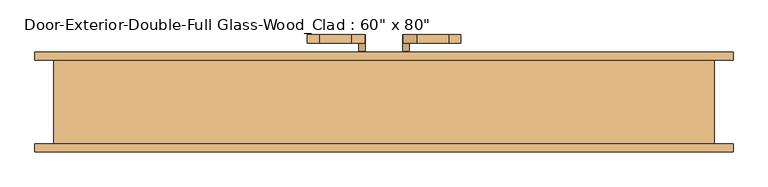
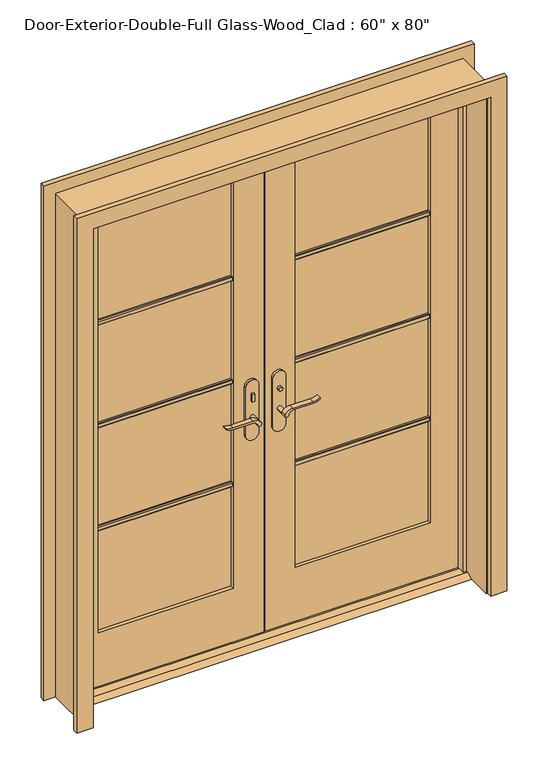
"""IFC4 building model written with IfcOpenShell, lengths in millimetres: door geometry."""

from ifc_helpers import new_model, si_unit, point, frame, frame_2d, origin, place, context, project, spatial, polyline, circle_curve, trimmed, segment, composite_curve, outline, extrude, faceted_brep, source, transform, mapped, element, save


def door_fa4e7676(model_context):
    return source(origin(), model_context, "Body", "SolidModel", [
        extrude(outline(polyline([(19.05, 12.7), (53.975, 12.7), (79.375, 0.0), (-6.35, 0.0), (19.05, 12.7)])), frame((-762.0, 0.0, 0.0), z_axis=(1.0, 0.0, 0.0), x_axis=(0.0, 1.0, 0.0)), (0.0, 0.0, 1.0), 1524.0),
        extrude(outline(polyline([(-47.4019111, 41.9), (-57.4019111, 41.9), (-57.4019111, 51.9), (-47.4019111, 51.9), (-47.4019111, 41.9)])), frame((0.0, 0.0, 981.9), z_axis=(0.0, 0.0, 1.0), x_axis=(1.0, 0.0, 0.0)), (0.0, 0.0, 1.0), 30.0),
        extrude(outline(composite_curve([segment(trimmed(circle_curve(frame_2d((996.9, -52.4019111)), 8.0), [point((996.9, -60.4019111))], [point((996.9, -44.4019111))], False, "CARTESIAN"), True, "CONTINUOUS"), segment(trimmed(circle_curve(frame_2d((996.9, -52.4019111)), 8.0), [point((996.9, -44.4019111))], [point((996.9, -60.4019111))], False, "CARTESIAN"), True, "CONTINUOUS")], self_intersect=False)), frame((0.0, 106.825, 0.0), z_axis=(0.0, 1.0, 0.0), x_axis=(0.0, 0.0, 1.0)), (0.0, 0.0, 1.0), 10.0),
        extrude(outline(composite_curve([segment(trimmed(circle_curve(frame_2d((897.1555521, -76.0694241)), 37.2832219), [point((919.0523287, -45.8937749))], [point((934.4, -77.7693445))], False, "CARTESIAN"), True, "CONTINUOUS"), segment(polyline([(934.4, -77.7693445), (934.4, -154.045502)]), True, "CONTINUOUS"), segment(trimmed(circle_curve(frame_2d((1017.6850638, -153.9791202)), 83.2850902), [point((934.4, -154.045502))], [point((939.4, -182.4019111))], True, "CARTESIAN"), True, "CONTINUOUS"), segment(polyline([(939.4, -182.4019111), (936.6135558, -182.4019111)]), True, "CONTINUOUS"), segment(trimmed(circle_curve(frame_2d((986.6709207, -150.4622499)), 59.3791355), [point((936.6135558, -182.4019111))], [point((927.4, -154.045502))], False, "CARTESIAN"), True, "CONTINUOUS"), segment(polyline([(927.4, -154.045502), (927.4, -77.7881013)]), True, "CONTINUOUS"), segment(trimmed(circle_curve(frame_2d((909.2738613, -77.7881013)), 18.1261387), [point((927.4, -77.7881013))], [point((914.4, -60.4019111))], True, "CARTESIAN"), True, "CONTINUOUS"), segment(trimmed(circle_curve(frame_2d((914.4, -52.4019111)), 8.0), [point((914.4, -60.4019111))], [point((919.0523287, -45.8937749))], False, "CARTESIAN"), True, "CONTINUOUS")], self_intersect=False)), frame((0.0, 1.9, 0.0), z_axis=(0.0, 1.0, 0.0), x_axis=(0.0, 0.0, 1.0)), (0.0, 0.0, 1.0), 20.0),
        extrude(outline(composite_curve([segment(trimmed(circle_curve(frame_2d((914.4, -52.4019111)), 8.0), [point((914.3999903, -60.4019111))], [point((919.0523287, -45.8937749))], False, "CARTESIAN"), True, "CONTINUOUS"), segment(trimmed(circle_curve(frame_2d((897.1555521, -76.0694241)), 37.2832219), [point((919.0523287, -45.8937749))], [point((934.4, -77.7693445))], False, "CARTESIAN"), True, "CONTINUOUS"), segment(polyline([(934.4, -77.7693445), (934.4, -154.045502)]), True, "CONTINUOUS"), segment(trimmed(circle_curve(frame_2d((1017.6850638, -153.9791202)), 83.2850902), [point((934.4, -154.045502))], [point((939.4, -182.4019111))], True, "CARTESIAN"), True, "CONTINUOUS"), segment(polyline([(939.4, -182.4019111), (936.6135558, -182.4019111)]), True, "CONTINUOUS"), segment(trimmed(circle_curve(frame_2d((986.6709207, -150.4622499)), 59.3791355), [point((936.6135558, -182.4019111))], [point((927.4, -154.045502))], False, "CARTESIAN"), True, "CONTINUOUS"), segment(polyline([(927.4, -154.045502), (927.4, -77.788099)]), True, "CONTINUOUS"), segment(trimmed(circle_curve(frame_2d((909.2738682, -77.788099)), 18.1261318), [point((927.4, -77.788099))], [point((914.3999903, -60.4019111))], True, "CARTESIAN"), True, "CONTINUOUS")], self_intersect=False)), frame((0.0, 136.825, 0.0), z_axis=(0.0, 1.0, 0.0), x_axis=(0.0, 0.0, 1.0)), (0.0, 0.0, 1.0), 20.0),
        extrude(outline(composite_curve([segment(trimmed(circle_curve(frame_2d((914.4, -52.4019111)), 8.0), [point((914.4, -60.4019111))], [point((914.4, -44.4019111))], False, "CARTESIAN"), True, "CONTINUOUS"), segment(trimmed(circle_curve(frame_2d((914.4, -52.4019111)), 8.0), [point((914.4, -44.4019111))], [point((914.4, -60.4019111))], False, "CARTESIAN"), True, "CONTINUOUS")], self_intersect=False)), frame((0.0, 21.9, 0.0), z_axis=(0.0, 1.0, 0.0), x_axis=(0.0, 0.0, 1.0)), (0.0, 0.0, 1.0), 30.0),
        extrude(outline(composite_curve([segment(trimmed(circle_curve(frame_2d((914.4, -52.4019111)), 8.0), [point((914.4, -60.4019111))], [point((914.4, -44.4019111))], False, "CARTESIAN"), True, "CONTINUOUS"), segment(trimmed(circle_curve(frame_2d((914.4, -52.4019111)), 8.0), [point((914.4, -44.4019111))], [point((914.4, -60.4019111))], False, "CARTESIAN"), True, "CONTINUOUS")], self_intersect=False)), frame((0.0, 106.825, 0.0), z_axis=(0.0, 1.0, 0.0), x_axis=(0.0, 0.0, 1.0)), (0.0, 0.0, 1.0), 30.0),
        extrude(outline(composite_curve([segment(polyline([(844.4, -27.4019111), (1039.4, -27.4019111)]), True, "CONTINUOUS"), segment(trimmed(circle_curve(frame_2d((1039.4, -52.4019111)), 25.0), [point((1039.4, -27.4019111))], [point((1039.4, -77.4019111))], False, "CARTESIAN"), True, "CONTINUOUS"), segment(polyline([(1039.4, -77.4019111), (844.4, -77.4019111)]), True, "CONTINUOUS"), segment(trimmed(circle_curve(frame_2d((844.4, -52.4019111)), 25.0), [point((844.4, -77.4019111))], [point((844.4, -27.4019111))], False, "CARTESIAN"), True, "CONTINUOUS")], self_intersect=False)), frame((0.0, 51.9, 0.0), z_axis=(0.0, 1.0, 0.0), x_axis=(0.0, 0.0, 1.0)), (0.0, 0.0, 1.0), 10.0),
        extrude(outline(composite_curve([segment(polyline([(844.4, -27.4019111), (1039.4, -27.4019111)]), True, "CONTINUOUS"), segment(trimmed(circle_curve(frame_2d((1039.4, -52.4019111)), 25.0), [point((1039.4, -27.4019111))], [point((1039.4, -77.4019111))], False, "CARTESIAN"), True, "CONTINUOUS"), segment(polyline([(1039.4, -77.4019111), (844.4, -77.4019111)]), True, "CONTINUOUS"), segment(trimmed(circle_curve(frame_2d((844.4, -52.4019111)), 25.0), [point((844.4, -77.4019111))], [point((844.4, -27.4019111))], False, "CARTESIAN"), True, "CONTINUOUS")], self_intersect=False)), frame((0.0, 96.825, 0.0), z_axis=(0.0, 1.0, 0.0), x_axis=(0.0, 0.0, 1.0)), (0.0, 0.0, 1.0), 10.0),
        extrude(outline(polyline([(47.3875, 116.825), (57.3875, 116.825), (57.3875, 106.825), (47.3875, 106.825), (47.3875, 116.825)])), frame((0.0, 0.0, 981.9), z_axis=(0.0, 0.0, 1.0), x_axis=(1.0, 0.0, 0.0)), (0.0, 0.0, 1.0), 30.0),
        extrude(outline(composite_curve([segment(trimmed(circle_curve(frame_2d((996.9, 52.3875)), 8.0), [point((996.9, 60.3875))], [point((996.9, 44.3875))], False, "CARTESIAN"), True, "CONTINUOUS"), segment(trimmed(circle_curve(frame_2d((996.9, 52.3875)), 8.0), [point((996.9, 44.3875))], [point((996.9, 60.3875))], False, "CARTESIAN"), True, "CONTINUOUS")], self_intersect=False)), frame((0.0, 41.9, 0.0), z_axis=(0.0, 1.0, 0.0), x_axis=(0.0, 0.0, 1.0)), (0.0, 0.0, 1.0), 10.0),
        extrude(outline(composite_curve([segment(trimmed(circle_curve(frame_2d((914.4, 52.3875)), 8.0), [point((919.0523287, 45.8793637))], [point((914.4, 60.3875))], False, "CARTESIAN"), True, "CONTINUOUS"), segment(trimmed(circle_curve(frame_2d((909.2738613, 77.7736901)), 18.1261387), [point((914.4, 60.3875))], [point((927.4, 77.7736901))], True, "CARTESIAN"), True, "CONTINUOUS"), segment(polyline([(927.4, 77.7736901), (927.4, 154.0310909)]), True, "CONTINUOUS"), segment(trimmed(circle_curve(frame_2d((986.6709207, 150.4478388)), 59.3791355), [point((927.4, 154.0310909))], [point((936.6135558, 182.3875))], False, "CARTESIAN"), True, "CONTINUOUS"), segment(polyline([(936.6135558, 182.3875), (939.4, 182.3875)]), True, "CONTINUOUS"), segment(trimmed(circle_curve(frame_2d((1017.6850638, 153.9647091)), 83.2850902), [point((939.4, 182.3875))], [point((934.4, 154.0310909))], True, "CARTESIAN"), True, "CONTINUOUS"), segment(polyline([(934.4, 154.0310909), (934.4, 77.7549333)]), True, "CONTINUOUS"), segment(trimmed(circle_curve(frame_2d((897.1555521, 76.0550129)), 37.2832219), [point((934.4, 77.7549333))], [point((919.0523287, 45.8793637))], False, "CARTESIAN"), True, "CONTINUOUS")], self_intersect=False)), frame((0.0, 136.825, 0.0), z_axis=(0.0, 1.0, 0.0), x_axis=(0.0, 0.0, 1.0)), (0.0, 0.0, 1.0), 20.0),
        extrude(outline(composite_curve([segment(trimmed(circle_curve(frame_2d((909.2738682, 77.7736878)), 18.1261318), [point((914.3999903, 60.3875))], [point((927.4, 77.7736878))], True, "CARTESIAN"), True, "CONTINUOUS"), segment(polyline([(927.4, 77.7736878), (927.4, 154.0310909)]), True, "CONTINUOUS"), segment(trimmed(circle_curve(frame_2d((986.6709207, 150.4478388)), 59.3791355), [point((927.4, 154.0310909))], [point((936.6135558, 182.3875))], False, "CARTESIAN"), True, "CONTINUOUS"), segment(polyline([(936.6135558, 182.3875), (939.4, 182.3875)]), True, "CONTINUOUS"), segment(trimmed(circle_curve(frame_2d((1017.6850638, 153.9647091)), 83.2850902), [point((939.4, 182.3875))], [point((934.4, 154.0310909))], True, "CARTESIAN"), True, "CONTINUOUS"), segment(polyline([(934.4, 154.0310909), (934.4, 77.7549333)]), True, "CONTINUOUS"), segment(trimmed(circle_curve(frame_2d((897.1555521, 76.0550129)), 37.2832219), [point((934.4, 77.7549333))], [point((919.0523287, 45.8793637))], False, "CARTESIAN"), True, "CONTINUOUS"), segment(trimmed(circle_curve(frame_2d((914.4, 52.3875)), 8.0), [point((919.0523287, 45.8793637))], [point((914.3999903, 60.3875))], False, "CARTESIAN"), True, "CONTINUOUS")], self_intersect=False)), frame((0.0, 1.9, 0.0), z_axis=(0.0, 1.0, 0.0), x_axis=(0.0, 0.0, 1.0)), (0.0, 0.0, 1.0), 20.0),
        extrude(outline(composite_curve([segment(trimmed(circle_curve(frame_2d((914.4, 52.3875)), 8.0), [point((914.4, 60.3875))], [point((914.4, 44.3875))], False, "CARTESIAN"), True, "CONTINUOUS"), segment(trimmed(circle_curve(frame_2d((914.4, 52.3875)), 8.0), [point((914.4, 44.3875))], [point((914.4, 60.3875))], False, "CARTESIAN"), True, "CONTINUOUS")], self_intersect=False)), frame((0.0, 106.825, 0.0), z_axis=(0.0, 1.0, 0.0), x_axis=(0.0, 0.0, 1.0)), (0.0, 0.0, 1.0), 30.0),
        extrude(outline(composite_curve([segment(trimmed(circle_curve(frame_2d((914.4, 52.3875)), 8.0), [point((914.4, 60.3875))], [point((914.4, 44.3875))], False, "CARTESIAN"), True, "CONTINUOUS"), segment(trimmed(circle_curve(frame_2d((914.4, 52.3875)), 8.0), [point((914.4, 44.3875))], [point((914.4, 60.3875))], False, "CARTESIAN"), True, "CONTINUOUS")], self_intersect=False)), frame((0.0, 21.9, 0.0), z_axis=(0.0, 1.0, 0.0), x_axis=(0.0, 0.0, 1.0)), (0.0, 0.0, 1.0), 30.0),
        extrude(outline(composite_curve([segment(trimmed(circle_curve(frame_2d((844.4, 52.3875)), 25.0), [point((844.4, 27.3875))], [point((844.4, 77.3875))], False, "CARTESIAN"), True, "CONTINUOUS"), segment(polyline([(844.4, 77.3875), (1039.4, 77.3875)]), True, "CONTINUOUS"), segment(trimmed(circle_curve(frame_2d((1039.4, 52.3875)), 25.0), [point((1039.4, 77.3875))], [point((1039.4, 27.3875))], False, "CARTESIAN"), True, "CONTINUOUS"), segment(polyline([(1039.4, 27.3875), (844.4, 27.3875)]), True, "CONTINUOUS")], self_intersect=False)), frame((0.0, 96.825, 0.0), z_axis=(0.0, 1.0, 0.0), x_axis=(0.0, 0.0, 1.0)), (0.0, 0.0, 1.0), 10.0),
        extrude(outline(composite_curve([segment(trimmed(circle_curve(frame_2d((844.4, 52.3875)), 25.0), [point((844.4, 27.3875))], [point((844.4, 77.3875))], False, "CARTESIAN"), True, "CONTINUOUS"), segment(polyline([(844.4, 77.3875), (1039.4, 77.3875)]), True, "CONTINUOUS"), segment(trimmed(circle_curve(frame_2d((1039.4, 52.3875)), 25.0), [point((1039.4, 77.3875))], [point((1039.4, 27.3875))], False, "CARTESIAN"), True, "CONTINUOUS"), segment(polyline([(1039.4, 27.3875), (844.4, 27.3875)]), True, "CONTINUOUS")], self_intersect=False)), frame((0.0, 51.9, 0.0), z_axis=(0.0, 1.0, 0.0), x_axis=(0.0, 0.0, 1.0)), (0.0, 0.0, 1.0), 10.0),
        extrude(outline(polyline([(75.87, 1502.171875), (75.87, 1483.121875), (69.52, 1483.121875), (66.345, 1486.296875), (66.345, 1498.996875), (69.52, 1502.171875), (75.87, 1502.171875)])), frame((120.65, 0.0, 0.0), z_axis=(1.0, 0.0, 0.0), x_axis=(0.0, 1.0, 0.0)), (0.0, 0.0, 1.0), 520.7),
        extrude(outline(polyline([(75.87, 1081.88125), (75.87, 1062.83125), (69.52, 1062.83125), (66.345, 1066.00625), (66.345, 1078.70625), (69.52, 1081.88125), (75.87, 1081.88125)])), frame((120.65, 0.0, 0.0), z_axis=(1.0, 0.0, 0.0), x_axis=(0.0, 1.0, 0.0)), (0.0, 0.0, 1.0), 520.7),
        extrude(outline(polyline([(75.87, 661.590625), (75.87, 642.540625), (69.52, 642.540625), (66.345, 645.715625), (66.345, 658.415625), (69.52, 661.590625), (75.87, 661.590625)])), frame((120.65, 0.0, 0.0), z_axis=(1.0, 0.0, 0.0), x_axis=(0.0, 1.0, 0.0)), (0.0, 0.0, 1.0), 520.7),
        extrude(outline(polyline([(82.855, 1502.171875), (89.205, 1502.171875), (92.38, 1498.996875), (92.38, 1486.296875), (89.205, 1483.121875), (82.855, 1483.121875), (82.855, 1502.171875)])), frame((-641.35, 0.0, 0.0), z_axis=(1.0, 0.0, 0.0), x_axis=(0.0, 1.0, 0.0)), (0.0, 0.0, 1.0), 520.7),
        extrude(outline(polyline([(82.855, 1081.88125), (89.205, 1081.88125), (92.38, 1078.70625), (92.38, 1066.00625), (89.205, 1062.83125), (82.855, 1062.83125), (82.855, 1081.88125)])), frame((-641.35, 0.0, 0.0), z_axis=(1.0, 0.0, 0.0), x_axis=(0.0, 1.0, 0.0)), (0.0, 0.0, 1.0), 520.7),
        extrude(outline(polyline([(82.855, 661.590625), (89.205, 661.590625), (92.38, 658.415625), (92.38, 645.715625), (89.205, 642.540625), (82.855, 642.540625), (82.855, 661.590625)])), frame((-641.35, 0.0, 0.0), z_axis=(1.0, 0.0, 0.0), x_axis=(0.0, 1.0, 0.0)), (0.0, 0.0, 1.0), 520.7),
        extrude(outline(polyline([(82.855, 1502.171875), (89.205, 1502.171875), (92.38, 1498.996875), (92.38, 1486.296875), (89.205, 1483.121875), (82.855, 1483.121875), (82.855, 1502.171875)])), frame((120.65, 0.0, 0.0), z_axis=(1.0, 0.0, 0.0), x_axis=(0.0, 1.0, 0.0)), (0.0, 0.0, 1.0), 520.7),
        extrude(outline(polyline([(82.855, 1081.88125), (89.205, 1081.88125), (92.38, 1078.70625), (92.38, 1066.00625), (89.205, 1062.83125), (82.855, 1062.83125), (82.855, 1081.88125)])), frame((120.65, 0.0, 0.0), z_axis=(1.0, 0.0, 0.0), x_axis=(0.0, 1.0, 0.0)), (0.0, 0.0, 1.0), 520.7),
        extrude(outline(polyline([(82.855, 661.590625), (89.205, 661.590625), (92.38, 658.415625), (92.38, 645.715625), (89.205, 642.540625), (82.855, 642.540625), (82.855, 661.590625)])), frame((120.65, 0.0, 0.0), z_axis=(1.0, 0.0, 0.0), x_axis=(0.0, 1.0, 0.0)), (0.0, 0.0, 1.0), 520.7),
        extrude(outline(polyline([(75.87, 1502.171875), (75.87, 1483.121875), (69.52, 1483.121875), (66.345, 1486.296875), (66.345, 1498.996875), (69.52, 1502.171875), (75.87, 1502.171875)])), frame((-641.35, 0.0, 0.0), z_axis=(1.0, 0.0, 0.0), x_axis=(0.0, 1.0, 0.0)), (0.0, 0.0, 1.0), 520.7),
        extrude(outline(polyline([(75.87, 1081.88125), (75.87, 1062.83125), (69.52, 1062.83125), (66.345, 1066.00625), (66.345, 1078.70625), (69.52, 1081.88125), (75.87, 1081.88125)])), frame((-641.35, 0.0, 0.0), z_axis=(1.0, 0.0, 0.0), x_axis=(0.0, 1.0, 0.0)), (0.0, 0.0, 1.0), 520.7),
        extrude(outline(polyline([(75.87, 661.590625), (75.87, 642.540625), (69.52, 642.540625), (66.345, 645.715625), (66.345, 658.415625), (69.52, 661.590625), (75.87, 661.590625)])), frame((-641.35, 0.0, 0.0), z_axis=(1.0, 0.0, 0.0), x_axis=(0.0, 1.0, 0.0)), (0.0, 0.0, 1.0), 520.7),
        extrude(outline(polyline([(0.0, 768.35), (0.0, 831.85), (2101.85, 831.85), (2101.85, -831.85), (0.0, -831.85), (0.0, -768.35), (2038.35, -768.35), (2038.35, 768.35), (0.0, 768.35)])), frame((0.0, 96.825, 0.0), z_axis=(0.0, 1.0, 0.0), x_axis=(0.0, 0.0, 1.0)), (0.0, 0.0, 1.0), 19.05),
        extrude(outline(polyline([(0.0, 768.35), (0.0, 831.85), (2101.85, 831.85), (2101.85, -831.85), (0.0, -831.85), (0.0, -768.35), (2038.35, -768.35), (2038.35, 768.35), (0.0, 768.35)])), frame((0.0, -122.225, 0.0), z_axis=(0.0, 1.0, 0.0), x_axis=(0.0, 0.0, 1.0)), (0.0, 0.0, 1.0), 19.05),
        extrude(outline(polyline([(12.7, 762.0), (2032.0, 762.0), (2032.0, 1.5875), (12.7, 1.5875), (12.7, 762.0)]), holes=[polyline([(1912.9375, 120.65), (1912.9375, 641.35), (231.775, 641.35), (231.775, 120.65), (1912.9375, 120.65)])]), frame((0.0, 61.9, 0.0), z_axis=(0.0, 1.0, 0.0), x_axis=(0.0, 0.0, 1.0)), (0.0, 0.0, 1.0), 34.925),
        extrude(outline(polyline([(2032.0, -762.0), (12.7, -762.0), (12.7, -1.6019111), (2032.0, -1.6019111), (2032.0, -762.0)]), holes=[polyline([(231.775, -641.35), (1912.9375, -641.35), (1912.9375, -120.65), (231.775, -120.65), (231.775, -641.35)])]), frame((0.0, 61.9, 0.0), z_axis=(0.0, 1.0, 0.0), x_axis=(0.0, 0.0, 1.0)), (0.0, 0.0, 1.0), 34.925),
        faceted_brep([(787.4, 96.825, 0.0), (787.4, -103.175, 0.0), (762.0, -103.175, 0.0), (762.0, 26.975, 0.0), (749.3, 26.975, 0.0), (749.3, 61.9, 0.0), (762.0, 61.9, 0.0), (762.0, 96.825, 0.0), (787.4, 96.825, 2057.4), (787.4, -103.175, 2057.4), (-787.4, -103.175, 2057.4), (-787.4, -103.175, 0.0), (-762.0, -103.175, 0.0), (-762.0, -103.175, 2032.0), (762.0, -103.175, 2032.0), (762.0, 26.975, 2032.0), (-762.0, 26.975, 2032.0), (-762.0, 26.975, 0.0), (-749.3, 26.975, 0.0), (-749.3, 26.975, 2019.3), (749.3, 26.975, 2019.3), (749.3, 61.9, 2019.3), (1.5875, 61.9, 2019.3), (-1.6019111, 61.9, 2019.3), (-749.3, 61.9, 2019.3), (-749.3, 61.9, 0.0), (-762.0, 61.9, 0.0), (-762.0, 61.9, 2032.0), (-1.6019111, 61.9, 2032.0), (1.5875, 61.9, 2032.0), (762.0, 61.9, 2032.0), (762.0, 96.825, 2032.0), (1.5875, 96.825, 2032.0), (-1.6019111, 96.825, 2032.0), (-762.0, 96.825, 2032.0), (-762.0, 96.825, 0.0), (-787.4, 96.825, 0.0), (-787.4, 96.825, 2057.4)], [[[0, 1, 2, 3, 4, 5, 6, 7]], [[1, 0, 8, 9]], [[2, 1, 9, 10, 11, 12, 13, 14]], [[3, 2, 14, 15]], [[4, 3, 15, 16, 17, 18, 19, 20]], [[5, 4, 20, 21]], [[6, 5, 21, 22, 23, 24, 25, 26, 27, 28, 29, 30]], [[7, 6, 30, 31]], [[0, 7, 31, 32, 33, 34, 35, 36, 37, 8]], [[9, 8, 37, 10]], [[14, 13, 16, 15]], [[20, 19, 24, 23, 22, 21]], [[31, 30, 29, 28, 27, 34, 33, 32]], [[12, 11, 36, 35, 26, 25, 18, 17]], [[11, 10, 37, 36]], [[13, 12, 17, 16]], [[19, 18, 25, 24]], [[27, 26, 35, 34]]]),
        extrude(outline(polyline([(641.35, 75.87), (120.65, 75.87), (120.65, 82.855), (641.35, 82.855), (641.35, 75.87)])), frame((0.0, 0.0, 231.775), z_axis=(0.0, 0.0, 1.0), x_axis=(1.0, 0.0, 0.0)), (0.0, 0.0, 1.0), 1681.1625),
        extrude(outline(polyline([(-120.65, 75.87), (-641.35, 75.87), (-641.35, 82.855), (-120.65, 82.855), (-120.65, 75.87)])), frame((0.0, 0.0, 231.775), z_axis=(0.0, 0.0, 1.0), x_axis=(1.0, 0.0, 0.0)), (0.0, 0.0, 1.0), 1681.1625),
    ])


if __name__ == "__main__":
    model = new_model("IFC4")
    model_context = context("Model", 3, world=origin())
    ifc_project = project(units=[si_unit("LENGTHUNIT", "METRE", prefix="MILLI")], contexts=[model_context])
    site = spatial("IfcSite", under=ifc_project)
    building = spatial("IfcBuilding", under=site)
    placement = place(None, origin())
    door_shape = door_fa4e7676(model_context)
    element("IfcDoor", 1, ObjectType="Door-Exterior-Double-Full Glass-Wood_Clad : 60\" x 80\"", at=placement, inside=building, context=model_context, shape_type="MappedRepresentation", body=[
        mapped(door_shape, transform((0.0, 0.0, 0.0), x_axis=(1.0, 0.0, 0.0), y_axis=(0.0, 1.0, 0.0), z_axis=(0.0, 0.0, 1.0))),
    ])
    save(model, "model.ifc")
